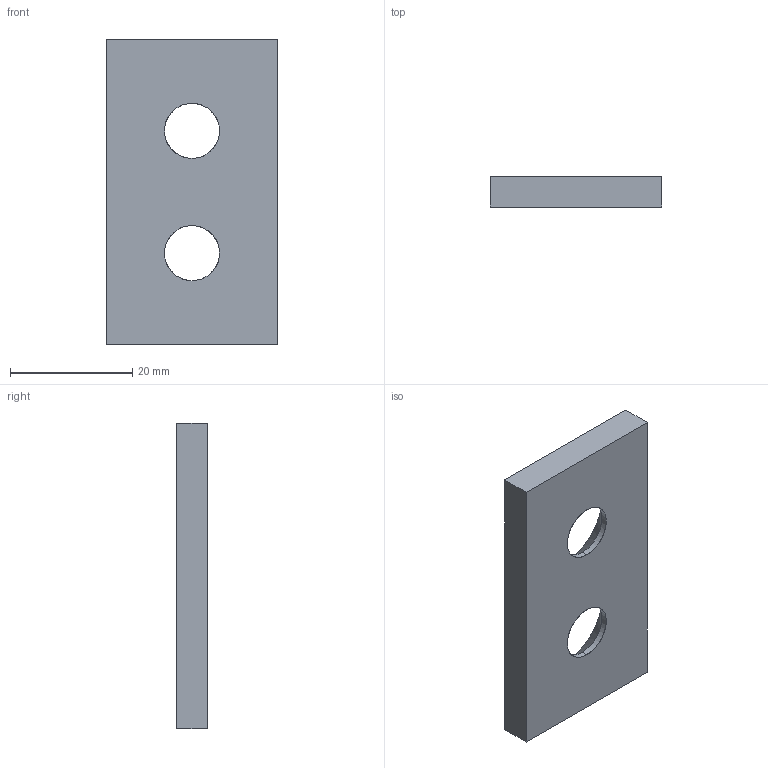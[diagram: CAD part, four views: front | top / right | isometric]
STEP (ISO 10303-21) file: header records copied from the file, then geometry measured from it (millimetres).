
FILE_DESCRIPTION(('CATIA V5 STEP Exchange'),'2;1');
FILE_NAME('C:\Users\Utente\Desktop\3D files A605\A605-028-050.stp','2020-04-13T15:45:35+00:00',('none'),('none'),'CATIA Version 5 Release 20 GA (IN-10)','CATIA V5 STEP AP203','none');
FILE_SCHEMA(('CONFIG_CONTROL_DESIGN'));
Length unit declared in the file: millimetre
Products named in the file (1): Noname
Bounding box: 28 x 5 x 50 mm (x, y, z)
Surface area: 3517.4 mm2 (no closed solid volume)
Topology: 0 solids, 10 shells, 14 faces, 56 edges, 48 vertices
Faces by surface type: extrusion 6, cylinder 4, revolution 4
Entity records: 726 total; most frequent: CARTESIAN_POINT 233, DIRECTION 66, ORIENTED_EDGE 64, EDGE_CURVE 56, VERTEX_POINT 48, VECTOR 38, LINE 32, AXIS2_PLACEMENT_3D 21
